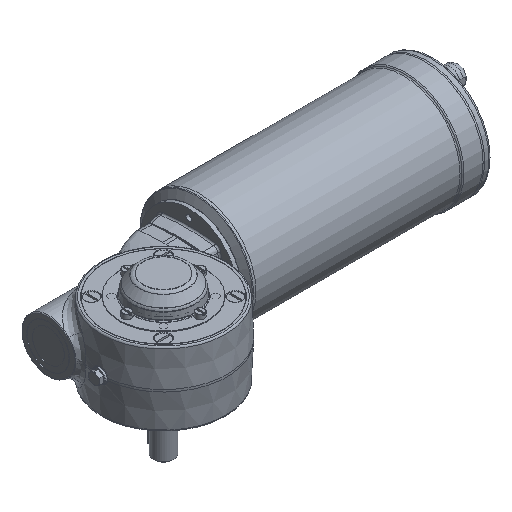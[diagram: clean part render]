
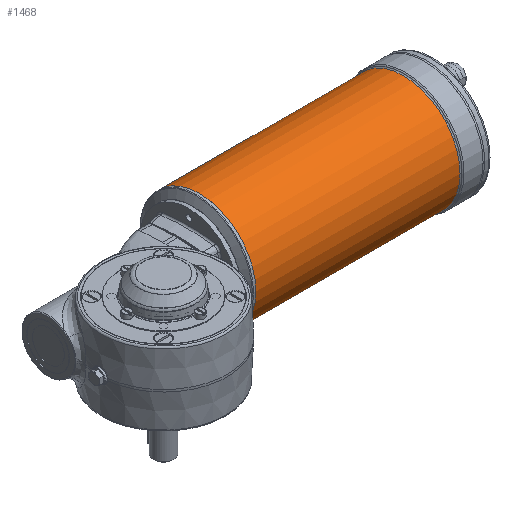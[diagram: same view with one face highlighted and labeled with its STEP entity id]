
A CAD part, isometric view. The second image highlights one B-rep face of the part: STEP entity #1468.
In plain terms, the highlighted cylindrical face has radius 69.5 mm (diameter 139 mm), a full revolution.
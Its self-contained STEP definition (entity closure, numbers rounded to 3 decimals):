
#1468 = ADVANCED_FACE( '', ( #3311, #3312 ), #3313, .T. );
#3311 = FACE_OUTER_BOUND( '', #9437, .T. );
#3312 = FACE_OUTER_BOUND( '', #9438, .T. );
#3313 = CYLINDRICAL_SURFACE( '', #9439, 69.5 );
#9437 = EDGE_LOOP( '', ( #14506 ) );
#9438 = EDGE_LOOP( '', ( #14507 ) );
#9439 = AXIS2_PLACEMENT_3D( '', #14508, #14509, #14510 );
#14506 = ORIENTED_EDGE( '', *, *, #16760, .T. );
#14507 = ORIENTED_EDGE( '', *, *, #17003, .T. );
#14508 = CARTESIAN_POINT( '', ( 267.168, 63., 0. ) );
#14509 = DIRECTION( '', ( -1., 0., 0. ) );
#14510 = DIRECTION( '', ( 0., 0., 1. ) );
#16760 = EDGE_CURVE( '', #18999, #18999, #19000, .F. );
#17003 = EDGE_CURVE( '', #19311, #19311, #19312, .T. );
#18999 = VERTEX_POINT( '', #23736 );
#19000 = CIRCLE( '', #23737, 69.5 );
#19311 = VERTEX_POINT( '', #24422 );
#19312 = CIRCLE( '', #24423, 69.5 );
#23736 = CARTESIAN_POINT( '', ( 357.672, 63., 69.5 ) );
#23737 = AXIS2_PLACEMENT_3D( '', #26491, #26492, #26493 );
#24422 = CARTESIAN_POINT( '', ( 107., 63., 69.5 ) );
#24423 = AXIS2_PLACEMENT_3D( '', #26719, #26720, #26721 );
#26491 = CARTESIAN_POINT( '', ( 357.672, 63., 0. ) );
#26492 = DIRECTION( '', ( 1., 0., 0. ) );
#26493 = DIRECTION( '', ( 0., 0., 1. ) );
#26719 = CARTESIAN_POINT( '', ( 107., 63., 0. ) );
#26720 = DIRECTION( '', ( 1., 0., 0. ) );
#26721 = DIRECTION( '', ( 0., 0., 1. ) );
